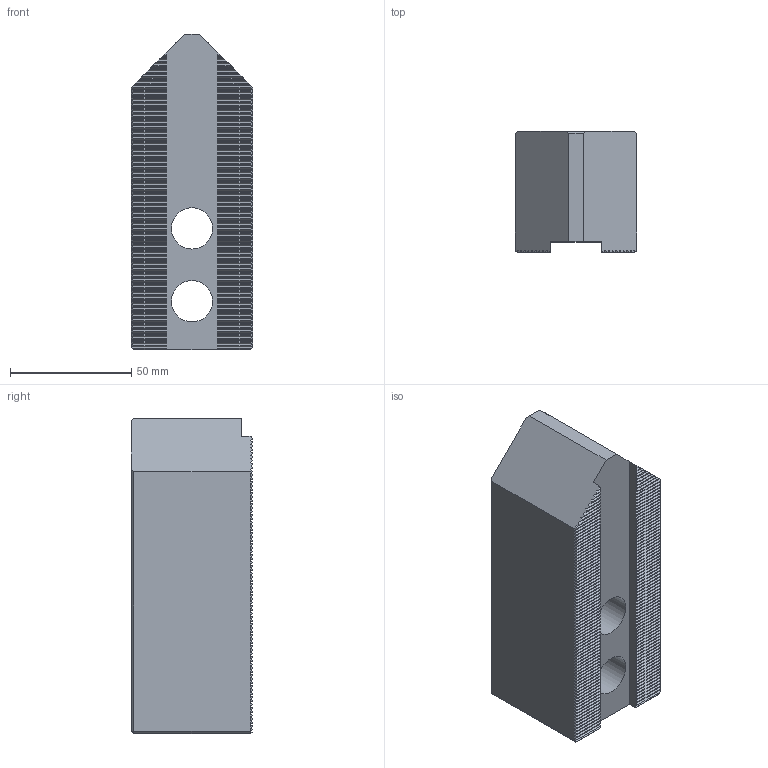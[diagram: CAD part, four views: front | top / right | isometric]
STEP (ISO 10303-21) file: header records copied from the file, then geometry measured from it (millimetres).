
FILE_DESCRIPTION(/* description */ (''),/* implementation_level */ '2;1');
FILE_NAME(/* name */ '',/* time_stamp */ '2025-10-20T17:08:00+03:00',/* author */ ('Arina Rekina'),/* organization */ (''),/* preprocessor_version */ 'ST-DEVELOPER v19.2',/* originating_system */ 'Autodesk Inventor 2024',/* authorisation */ '');
FILE_SCHEMA (('AUTOMOTIVE_DESIGN { 1 0 10303 214 3 1 1 }'));
Length unit declared in the file: millimetre
Products named in the file (1): SC-12-21(160мм) 
Bounding box: 50 x 50 x 130 mm (x, y, z)
Volume: 250607.7 mm3; surface area: 36888.5 mm2
Topology: 1 solids, 1 shells, 664 faces, 1682 edges, 1022 vertices
Faces by surface type: plane 658, cylinder 4, cone 2
Full cylindrical faces by diameter (mm): 17 x2, 24.5 x2
Entity records: 19205 total; most frequent: CARTESIAN_POINT 3369, ORIENTED_EDGE 3364, DIRECTION 3024, EDGE_CURVE 1682, LINE 1670, VECTOR 1670, VERTEX_POINT 1022, AXIS2_PLACEMENT_3D 677
